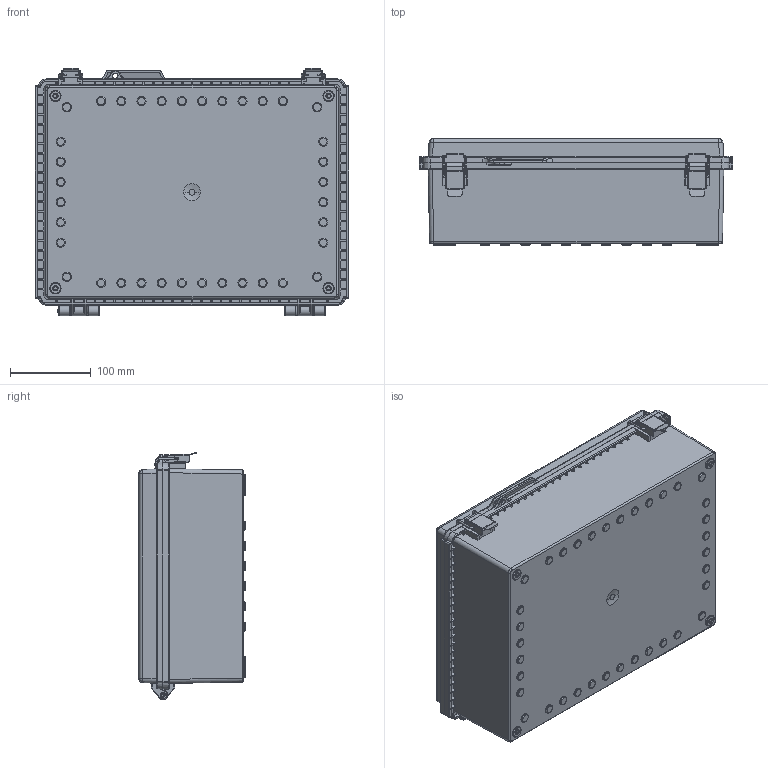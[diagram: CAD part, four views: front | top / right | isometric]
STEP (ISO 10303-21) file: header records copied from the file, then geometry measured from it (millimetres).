
FILE_DESCRIPTION (( 'STEP AP214' ), '1' );
FILE_NAME ('WQ-64.STEP', '2016-02-01T15:13:35', ( 'doug' ), ( '' ), 'SwSTEP 2.0', 'SolidWorks 2015', '' );
FILE_SCHEMA (( 'AUTOMOTIVE_DESIGN' ));
Length unit declared in the file: inch
Products named in the file (12): SCREWS-026_DEFAULT; WQ-64S_WQ-64S-02; WQ-PIN-02; WQ-57L-01_DEFAULT; LOOP^WQ-57L-01; PIN^WQ-57L-01; FRONT^WQ-57L-01_default; BASE^WQ-57L-01; WQ-64C_WQ-64C-02; WQ-64B_WQ-64B-02; WQ-64; SCREWS-026-004
Assembly tree (16 placements, depth 4):
  WQ-64
    WQ-64S_WQ-64S-02
      WQ-64B_WQ-64B-02
      WQ-64C_WQ-64C-02
      WQ-57L-01_DEFAULT  x2
        BASE^WQ-57L-01
        FRONT^WQ-57L-01_default
        PIN^WQ-57L-01
        LOOP^WQ-57L-01
      WQ-PIN-02  x2
    SCREWS-026-004
      SCREWS-026_DEFAULT  x4
Bounding box: 388.4 x 132 x 306.16 mm (x, y, z)
Volume: 1360277.7 mm3; surface area: 834018.7 mm2
Topology: 25 solids, 25 shells, 3542 faces, 8775 edges, 5430 vertices
Faces by surface type: plane 1235, cylinder 1231, bspline 498, torus 342, cone 176, sphere 60
Entity records: 107484 total; most frequent: CARTESIAN_POINT 33698, ORIENTED_EDGE 16024, DIRECTION 14353, EDGE_CURVE 8012, AXIS2_PLACEMENT_3D 5210, VERTEX_POINT 4983, LINE 3933, VECTOR 3933
